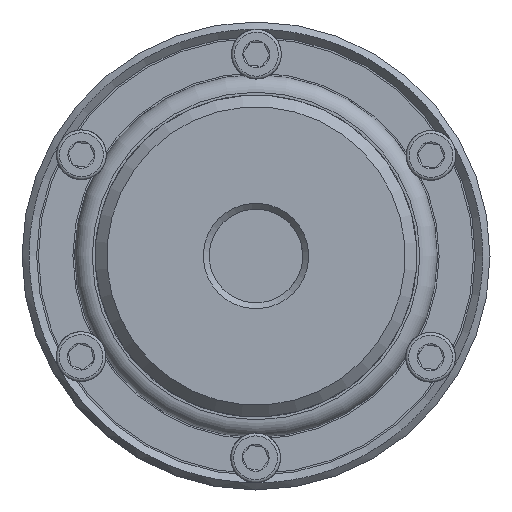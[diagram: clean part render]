
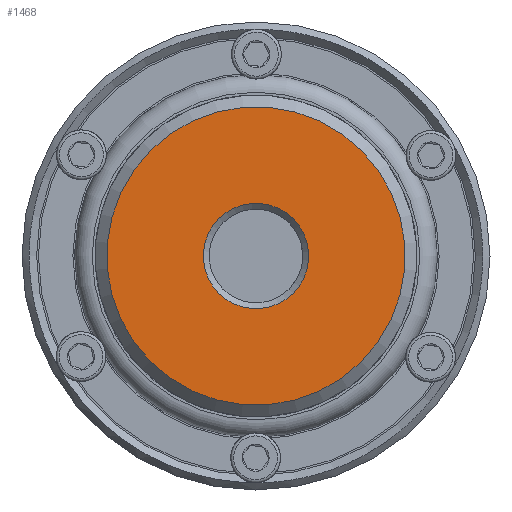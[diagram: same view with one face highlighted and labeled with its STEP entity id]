
A CAD part, left-side view. The second image highlights one B-rep face of the part: STEP entity #1468.
In plain terms, the highlighted planar face has unit normal (-1, 0, 0) as drawn and (0, 0, -1) by its records, which use the part's own axes.
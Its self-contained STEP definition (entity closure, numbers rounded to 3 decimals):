
#1468 = ADVANCED_FACE( '', ( #2956, #2957 ), #2958, .T. );
#2956 = FACE_OUTER_BOUND( '', #4654, .T. );
#2957 = FACE_BOUND( '', #4655, .T. );
#2958 = PLANE( '', #4656 );
#4654 = EDGE_LOOP( '', ( #7081 ) );
#4655 = EDGE_LOOP( '', ( #7082 ) );
#4656 = AXIS2_PLACEMENT_3D( '', #7083, #7084, #7085 );
#7081 = ORIENTED_EDGE( '', *, *, #9620, .T. );
#7082 = ORIENTED_EDGE( '', *, *, #9621, .T. );
#7083 = CARTESIAN_POINT( '', ( 0., 0., 0. ) );
#7084 = DIRECTION( '', ( 0., 0., -1. ) );
#7085 = DIRECTION( '', ( -1., 0., 0. ) );
#9620 = EDGE_CURVE( '', #11312, #11312, #11313, .T. );
#9621 = EDGE_CURVE( '', #11314, #11314, #11315, .F. );
#11312 = VERTEX_POINT( '', #14090 );
#11313 = CIRCLE( '', #14091, 25.5 );
#11314 = VERTEX_POINT( '', #14092 );
#11315 = CIRCLE( '', #14093, 9. );
#14090 = CARTESIAN_POINT( '', ( -25.5, 0., 0. ) );
#14091 = AXIS2_PLACEMENT_3D( '', #16016, #16017, #16018 );
#14092 = CARTESIAN_POINT( '', ( -9., 0., 0. ) );
#14093 = AXIS2_PLACEMENT_3D( '', #16019, #16020, #16021 );
#16016 = CARTESIAN_POINT( '', ( 0., 0., 0. ) );
#16017 = DIRECTION( '', ( 0., 0., -1. ) );
#16018 = DIRECTION( '', ( -1., 0., 0. ) );
#16019 = CARTESIAN_POINT( '', ( 0., 0., 0. ) );
#16020 = DIRECTION( '', ( 0., 0., -1. ) );
#16021 = DIRECTION( '', ( -1., 0., 0. ) );
